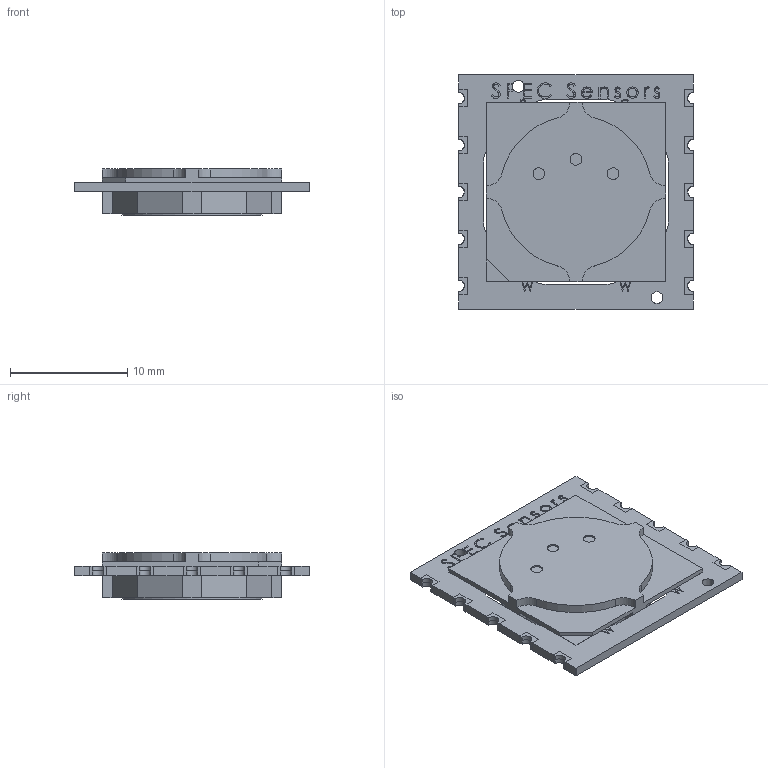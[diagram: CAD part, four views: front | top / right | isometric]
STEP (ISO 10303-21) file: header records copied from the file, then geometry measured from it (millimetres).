
FILE_DESCRIPTION (( 'STEP AP214' ), '1' );
FILE_NAME ('110-115 STEP.STEP', '2023-06-22T22:07:00', ( '' ), ( '' ), 'SwSTEP 2.0', 'SolidWorks 2017', '' );
FILE_SCHEMA (( 'AUTOMOTIVE_DESIGN' ));
Length unit declared in the file: millimetre
Products named in the file (4): 100-110 STEP; 110-115 STEP; Zebra Barcode; 981-014
Assembly tree (3 placements, depth 2):
  110-115 STEP
    100-110 STEP
    Zebra Barcode
    981-014
Bounding box: 20.01 x 20 x 3.93 mm (x, y, z)
Volume: 728 mm3; surface area: 1565.6 mm2
Topology: 32 solids, 32 shells, 599 faces, 1600 edges, 1072 vertices
Faces by surface type: plane 366, bspline 123, cylinder 110
Full cylindrical faces by diameter (mm): 0.75 x24, 1 x13, 12 x1
Entity records: 28057 total; most frequent: CARTESIAN_POINT 9386, ORIENTED_EDGE 3092, DIRECTION 2484, EDGE_CURVE 1546, LINE 1080, VECTOR 1080, VERTEX_POINT 1056, EDGE_LOOP 720
